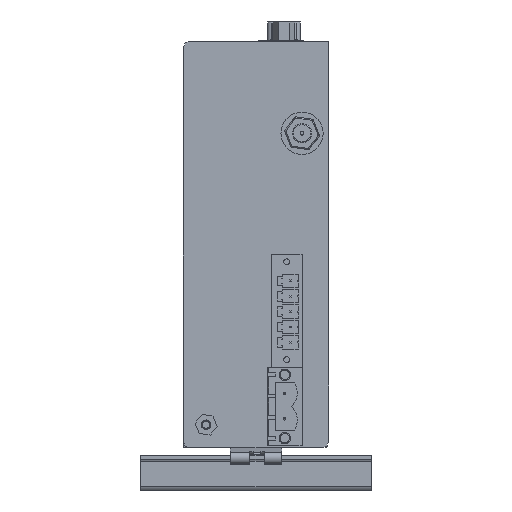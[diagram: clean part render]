
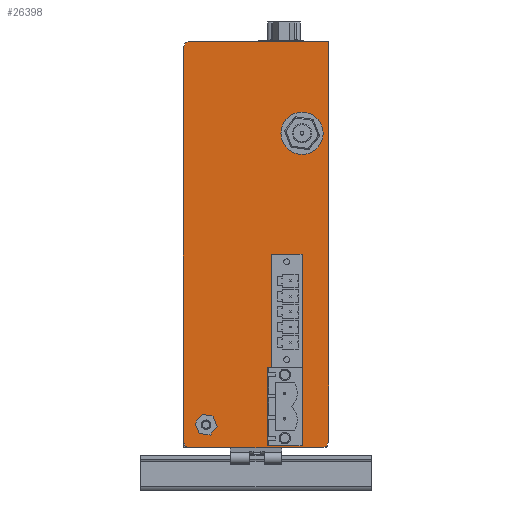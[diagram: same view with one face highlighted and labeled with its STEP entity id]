
A CAD part, front view. The second image highlights one B-rep face of the part: STEP entity #26398.
In plain terms, the highlighted planar face has unit normal (0, -1, 0).
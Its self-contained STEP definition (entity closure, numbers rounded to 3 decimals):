
#1150 = EDGE_LOOP ( 'NONE', ( #6683, #6684, #6685, #6686, #6687, #6688 ) ) ;
#1175 = EDGE_LOOP ( 'NONE', ( #6689, #6690, #6691, #6692, #6693, #6694, #6695 ) ) ;
#5123 = EDGE_CURVE ( 'NONE', #29451, #29449, #26001, .T. ) ;
#5124 = EDGE_CURVE ( 'NONE', #29449, #29450, #26003, .T. ) ;
#5125 = EDGE_CURVE ( 'NONE', #29453, #29452, #26005, .T. ) ;
#5126 = EDGE_CURVE ( 'NONE', #29455, #29361, #26008, .T. ) ;
#5127 = EDGE_CURVE ( 'NONE', #29455, #29266, #26007, .T. ) ;
#5128 = EDGE_CURVE ( 'NONE', #29362, #29167, #26009, .T. ) ;
#5129 = EDGE_CURVE ( 'NONE', #29166, #29267, #26011, .T. ) ;
#5712 = AXIS2_PLACEMENT_3D ( 'NONE', #22802, #22810, #22811 ) ;
#5715 = AXIS2_PLACEMENT_3D ( 'NONE', #22812, #22819, #22820 ) ;
#5716 = AXIS2_PLACEMENT_3D ( 'NONE', #22814, #22816, #22817 ) ;
#6683 = ORIENTED_EDGE ( 'NONE', *, *, #5124, .F. ) ;
#6684 = ORIENTED_EDGE ( 'NONE', *, *, #5123, .F. ) ;
#6685 = ORIENTED_EDGE ( 'NONE', *, *, #19032, .F. ) ;
#6686 = ORIENTED_EDGE ( 'NONE', *, *, #5125, .F. ) ;
#6687 = ORIENTED_EDGE ( 'NONE', *, *, #19033, .F. ) ;
#6688 = ORIENTED_EDGE ( 'NONE', *, *, #19034, .F. ) ;
#6689 = ORIENTED_EDGE ( 'NONE', *, *, #5127, .F. ) ;
#6690 = ORIENTED_EDGE ( 'NONE', *, *, #5126, .T. ) ;
#6691 = ORIENTED_EDGE ( 'NONE', *, *, #18943, .T. ) ;
#6692 = ORIENTED_EDGE ( 'NONE', *, *, #5128, .T. ) ;
#6693 = ORIENTED_EDGE ( 'NONE', *, *, #18745, .T. ) ;
#6694 = ORIENTED_EDGE ( 'NONE', *, *, #5129, .T. ) ;
#6695 = ORIENTED_EDGE ( 'NONE', *, *, #18845, .F. ) ;
#14240 = CARTESIAN_POINT ( 'NONE',  ( 12., -63.5, -52.5 ) ) ;
#14241 = DIRECTION ( 'NONE',  ( 1., 0., 0. ) ) ;
#14242 = CARTESIAN_POINT ( 'NONE',  ( 3., -63.5, -32. ) ) ;
#14244 = DIRECTION ( 'NONE',  ( -1., 0., 0. ) ) ;
#14248 = CARTESIAN_POINT ( 'NONE',  ( 4., -63.5, -32. ) ) ;
#14250 = DIRECTION ( 'NONE',  ( 0., 0., -1. ) ) ;
#15713 = LINE ( 'NONE', #24476, #15714 ) ;
#15714 = VECTOR ( 'NONE', #24478, 1000. ) ;
#15913 = LINE ( 'NONE', #24779, #15914 ) ;
#15914 = VECTOR ( 'NONE', #24780, 1000. ) ;
#16106 = LINE ( 'NONE', #25005, #16107 ) ;
#16107 = VECTOR ( 'NONE', #25006, 1000. ) ;
#17543 = FACE_OUTER_BOUND ( 'NONE', #1175, .T. ) ;
#17562 = FACE_BOUND ( 'NONE', #1150, .T. ) ;
#18745 = EDGE_CURVE ( 'NONE', #29167, #29166, #15713, .T. ) ;
#18845 = EDGE_CURVE ( 'NONE', #29266, #29267, #15913, .T. ) ;
#18943 = EDGE_CURVE ( 'NONE', #29361, #29362, #16106, .T. ) ;
#19032 = EDGE_CURVE ( 'NONE', #29452, #29451, #27372, .T. ) ;
#19033 = EDGE_CURVE ( 'NONE', #29454, #29453, #27374, .T. ) ;
#19034 = EDGE_CURVE ( 'NONE', #29450, #29454, #27376, .T. ) ;
#20355 = AXIS2_PLACEMENT_3D ( 'NONE', #23989, #24001, #24002 ) ;
#22799 = CARTESIAN_POINT ( 'NONE',  ( -19., -63.5, 53. ) ) ;
#22802 = CARTESIAN_POINT ( 'NONE',  ( -17., -63.5, 51. ) ) ;
#22804 = CARTESIAN_POINT ( 'NONE',  ( 12., -63.5, -2.5 ) ) ;
#22805 = DIRECTION ( 'NONE',  ( 0., 0., 1. ) ) ;
#22806 = CARTESIAN_POINT ( 'NONE',  ( 4., -63.5, -2.5 ) ) ;
#22807 = DIRECTION ( 'NONE',  ( -1., 0., 0. ) ) ;
#22808 = CARTESIAN_POINT ( 'NONE',  ( 3., -63.5, -52.5 ) ) ;
#22809 = DIRECTION ( 'NONE',  ( 0., 0., -1. ) ) ;
#22810 = DIRECTION ( 'NONE',  ( 0., -1., 0. ) ) ;
#22811 = DIRECTION ( 'NONE',  ( 0., 0., 1. ) ) ;
#22812 = CARTESIAN_POINT ( 'NONE',  ( 17., -63.5, -51. ) ) ;
#22813 = DIRECTION ( 'NONE',  ( 1., 0., 0. ) ) ;
#22814 = CARTESIAN_POINT ( 'NONE',  ( -17., -63.5, -51. ) ) ;
#22816 = DIRECTION ( 'NONE',  ( 0., -1., 0. ) ) ;
#22817 = DIRECTION ( 'NONE',  ( 0., 0., 1. ) ) ;
#22819 = DIRECTION ( 'NONE',  ( 0., -1., 0. ) ) ;
#22820 = DIRECTION ( 'NONE',  ( 0., 0., 1. ) ) ;
#23989 = CARTESIAN_POINT ( 'NONE',  ( -19., -63.5, 53. ) ) ;
#24000 = PLANE ( 'NONE',  #20355 ) ;
#24001 = DIRECTION ( 'NONE',  ( 0., 1., 0. ) ) ;
#24002 = DIRECTION ( 'NONE',  ( 0., 0., 1. ) ) ;
#24476 = CARTESIAN_POINT ( 'NONE',  ( -19., -63.5, -53. ) ) ;
#24478 = DIRECTION ( 'NONE',  ( 1., 0., 0. ) ) ;
#24779 = CARTESIAN_POINT ( 'NONE',  ( 19., -63.5, 53. ) ) ;
#24780 = DIRECTION ( 'NONE',  ( 0., 0., -1. ) ) ;
#25005 = CARTESIAN_POINT ( 'NONE',  ( -19., -63.5, 53. ) ) ;
#25006 = DIRECTION ( 'NONE',  ( 0., 0., -1. ) ) ;
#25995 = VECTOR ( 'NONE', #22813, 1000. ) ;
#26001 = LINE ( 'NONE', #22804, #26002 ) ;
#26002 = VECTOR ( 'NONE', #22805, 1000. ) ;
#26003 = LINE ( 'NONE', #22806, #26004 ) ;
#26004 = VECTOR ( 'NONE', #22807, 1000. ) ;
#26005 = LINE ( 'NONE', #22808, #26006 ) ;
#26006 = VECTOR ( 'NONE', #22809, 1000. ) ;
#26007 = LINE ( 'NONE', #22799, #25995 ) ;
#26008 = CIRCLE ( 'NONE', #5712, 2. ) ;
#26009 = CIRCLE ( 'NONE', #5716, 2. ) ;
#26011 = CIRCLE ( 'NONE', #5715, 2. ) ;
#26398 = ADVANCED_FACE ( 'NONE', ( #17562, #17543 ), #24000, .F. ) ;
#27372 = LINE ( 'NONE', #14240, #27373 ) ;
#27373 = VECTOR ( 'NONE', #14241, 1000. ) ;
#27374 = LINE ( 'NONE', #14242, #27375 ) ;
#27375 = VECTOR ( 'NONE', #14244, 1000. ) ;
#27376 = LINE ( 'NONE', #14248, #27377 ) ;
#27377 = VECTOR ( 'NONE', #14250, 1000. ) ;
#29166 = VERTEX_POINT ( 'NONE', #36822 ) ;
#29167 = VERTEX_POINT ( 'NONE', #36823 ) ;
#29266 = VERTEX_POINT ( 'NONE', #36922 ) ;
#29267 = VERTEX_POINT ( 'NONE', #36923 ) ;
#29361 = VERTEX_POINT ( 'NONE', #37017 ) ;
#29362 = VERTEX_POINT ( 'NONE', #37018 ) ;
#29449 = VERTEX_POINT ( 'NONE', #37105 ) ;
#29450 = VERTEX_POINT ( 'NONE', #37106 ) ;
#29451 = VERTEX_POINT ( 'NONE', #37107 ) ;
#29452 = VERTEX_POINT ( 'NONE', #37108 ) ;
#29453 = VERTEX_POINT ( 'NONE', #37109 ) ;
#29454 = VERTEX_POINT ( 'NONE', #37110 ) ;
#29455 = VERTEX_POINT ( 'NONE', #37111 ) ;
#36822 = CARTESIAN_POINT ( 'NONE',  ( 17., -63.5, -53. ) ) ;
#36823 = CARTESIAN_POINT ( 'NONE',  ( -17., -63.5, -53. ) ) ;
#36922 = CARTESIAN_POINT ( 'NONE',  ( 19., -63.5, 53. ) ) ;
#36923 = CARTESIAN_POINT ( 'NONE',  ( 19., -63.5, -51. ) ) ;
#37017 = CARTESIAN_POINT ( 'NONE',  ( -19., -63.5, 51. ) ) ;
#37018 = CARTESIAN_POINT ( 'NONE',  ( -19., -63.5, -51. ) ) ;
#37105 = CARTESIAN_POINT ( 'NONE',  ( 12., -63.5, -2.5 ) ) ;
#37106 = CARTESIAN_POINT ( 'NONE',  ( 4., -63.5, -2.5 ) ) ;
#37107 = CARTESIAN_POINT ( 'NONE',  ( 12., -63.5, -52.5 ) ) ;
#37108 = CARTESIAN_POINT ( 'NONE',  ( 3., -63.5, -52.5 ) ) ;
#37109 = CARTESIAN_POINT ( 'NONE',  ( 3., -63.5, -32. ) ) ;
#37110 = CARTESIAN_POINT ( 'NONE',  ( 4., -63.5, -32. ) ) ;
#37111 = CARTESIAN_POINT ( 'NONE',  ( -17., -63.5, 53. ) ) ;
